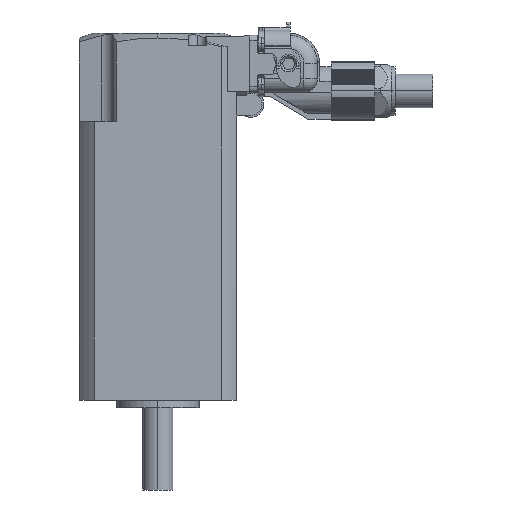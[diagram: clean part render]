
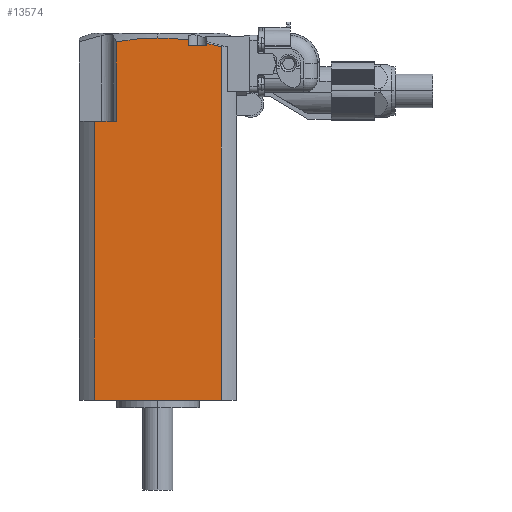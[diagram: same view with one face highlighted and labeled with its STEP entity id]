
A CAD part, left-side view. The second image highlights one B-rep face of the part: STEP entity #13574.
In plain terms, the highlighted planar face has unit normal (-1, 0, 0).
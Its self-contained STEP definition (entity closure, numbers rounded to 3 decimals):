
#25 = ORIENTED_EDGE ( 'NONE', *, *, #14742, .F. ) ;
#794 = VERTEX_POINT ( 'NONE', #15769 ) ;
#1204 = CARTESIAN_POINT ( 'NONE',  ( -21., -16.971, -24. ) ) ;
#1423 = EDGE_CURVE ( 'NONE', #10533, #3192, #8489, .T. ) ;
#1732 = B_SPLINE_CURVE_WITH_KNOTS ( 'NONE', 3,
 ( #17540, #16194, #12061, #17640, #10702, #4946, #17797, #3773 ),
 .UNSPECIFIED., .F., .F.,
 ( 4, 2, 2, 4 ),
 ( 0.054, 0.057, 0.059, 0.065 ),
 .UNSPECIFIED. ) ;
#2133 = VECTOR ( 'NONE', #16808, 1000. ) ;
#3148 = EDGE_CURVE ( 'NONE', #10533, #7988, #8834, .T. ) ;
#3192 = VERTEX_POINT ( 'NONE', #9545 ) ;
#3269 = CARTESIAN_POINT ( 'NONE',  ( -21., -2.688, 96.782 ) ) ;
#3289 = CARTESIAN_POINT ( 'NONE',  ( -21., 11.094, 74.5 ) ) ;
#3773 = CARTESIAN_POINT ( 'NONE',  ( -21., 0., 96.782 ) ) ;
#4004 = B_SPLINE_CURVE_WITH_KNOTS ( 'NONE', 3,
 ( #17925, #5420, #10987, #16383 ),
 .UNSPECIFIED., .F., .F.,
 ( 4, 4 ),
 ( 0.078, 0.082 ),
 .UNSPECIFIED. ) ;
#4194 = EDGE_CURVE ( 'NONE', #3192, #794, #15435, .T. ) ;
#4539 = VECTOR ( 'NONE', #13750, 1000. ) ;
#4626 = CARTESIAN_POINT ( 'NONE',  ( -21., -13.05, 94.75 ) ) ;
#4697 = ORIENTED_EDGE ( 'NONE', *, *, #14717, .F. ) ;
#4809 = CARTESIAN_POINT ( 'NONE',  ( -21., -16.971, 0. ) ) ;
#4946 = CARTESIAN_POINT ( 'NONE',  ( -21., 3.696, 96.693 ) ) ;
#5257 = DIRECTION ( 'NONE',  ( 0., 0., 1. ) ) ;
#5420 = CARTESIAN_POINT ( 'NONE',  ( -21., -14.371, 95.066 ) ) ;
#5590 = VERTEX_POINT ( 'NONE', #17775 ) ;
#5885 = EDGE_CURVE ( 'NONE', #13650, #5590, #11650, .T. ) ;
#6084 = DIRECTION ( 'NONE',  ( 0., 0., 1. ) ) ;
#6255 = CARTESIAN_POINT ( 'NONE',  ( -21., 16.971, 0. ) ) ;
#6271 = CARTESIAN_POINT ( 'NONE',  ( -21., 16.971, 74.5 ) ) ;
#6767 = EDGE_CURVE ( 'NONE', #7140, #13650, #13407, .T. ) ;
#6921 = CARTESIAN_POINT ( 'NONE',  ( -21., -21., 0. ) ) ;
#6985 = ORIENTED_EDGE ( 'NONE', *, *, #3148, .T. ) ;
#7035 = VERTEX_POINT ( 'NONE', #14498 ) ;
#7095 = AXIS2_PLACEMENT_3D ( 'NONE', #10327, #8675, #10140 ) ;
#7140 = VERTEX_POINT ( 'NONE', #6271 ) ;
#7378 = B_SPLINE_CURVE_WITH_KNOTS ( 'NONE', 3,
 ( #16969, #3269, #12773, #11388 ),
 .UNSPECIFIED., .F., .F.,
 ( 4, 4 ),
 ( 0.065, 0.073 ),
 .UNSPECIFIED. ) ;
#7452 = DIRECTION ( 'NONE',  ( 0., 0., 1. ) ) ;
#7671 = ORIENTED_EDGE ( 'NONE', *, *, #5885, .F. ) ;
#7707 = VECTOR ( 'NONE', #7452, 1000. ) ;
#7988 = VERTEX_POINT ( 'NONE', #16030 ) ;
#8007 = VERTEX_POINT ( 'NONE', #6255 ) ;
#8489 = LINE ( 'NONE', #14057, #8524 ) ;
#8524 = VECTOR ( 'NONE', #15992, 1000. ) ;
#8675 = DIRECTION ( 'NONE',  ( 1., 0., 0. ) ) ;
#8834 = LINE ( 'NONE', #12014, #10290 ) ;
#9545 = CARTESIAN_POINT ( 'NONE',  ( -21., -13.05, 94.75 ) ) ;
#9766 = ORIENTED_EDGE ( 'NONE', *, *, #15241, .F. ) ;
#10140 = DIRECTION ( 'NONE',  ( 0., 0., -1. ) ) ;
#10289 = CARTESIAN_POINT ( 'NONE',  ( -21., 11.094, 74.5 ) ) ;
#10290 = VECTOR ( 'NONE', #5257, 1000. ) ;
#10327 = CARTESIAN_POINT ( 'NONE',  ( -21., -21., 10.2 ) ) ;
#10533 = VERTEX_POINT ( 'NONE', #12472 ) ;
#10568 = CARTESIAN_POINT ( 'NONE',  ( -21., 16.971, -24. ) ) ;
#10702 = CARTESIAN_POINT ( 'NONE',  ( -21., 6.473, 96.431 ) ) ;
#10987 = CARTESIAN_POINT ( 'NONE',  ( -21., -15.677, 94.744 ) ) ;
#11225 = LINE ( 'NONE', #6921, #2133 ) ;
#11388 = CARTESIAN_POINT ( 'NONE',  ( -21., -8.05, 96.229 ) ) ;
#11650 = LINE ( 'NONE', #10289, #14842 ) ;
#11684 = ORIENTED_EDGE ( 'NONE', *, *, #16817, .F. ) ;
#12014 = CARTESIAN_POINT ( 'NONE',  ( -21., -8.05, 94.75 ) ) ;
#12017 = LINE ( 'NONE', #10568, #15617 ) ;
#12061 = CARTESIAN_POINT ( 'NONE',  ( -21., 9.253, 96.061 ) ) ;
#12104 = EDGE_CURVE ( 'NONE', #5590, #7035, #1732, .T. ) ;
#12127 = CARTESIAN_POINT ( 'NONE',  ( -21., 16.971, 74.5 ) ) ;
#12472 = CARTESIAN_POINT ( 'NONE',  ( -21., -8.05, 94.75 ) ) ;
#12773 = CARTESIAN_POINT ( 'NONE',  ( -21., -5.371, 96.594 ) ) ;
#12978 = PLANE ( 'NONE',  #7095 ) ;
#13247 = FACE_OUTER_BOUND ( 'NONE', #15614, .T. ) ;
#13407 = LINE ( 'NONE', #12127, #4539 ) ;
#13574 = ADVANCED_FACE ( 'NONE', ( #13247 ), #12978, .F. ) ;
#13650 = VERTEX_POINT ( 'NONE', #3289 ) ;
#13750 = DIRECTION ( 'NONE',  ( 0., -1., 0. ) ) ;
#13779 = ORIENTED_EDGE ( 'NONE', *, *, #4194, .F. ) ;
#13912 = DIRECTION ( 'NONE',  ( 0., 0., -1. ) ) ;
#13973 = CARTESIAN_POINT ( 'NONE',  ( -21., -16.971, 94.389 ) ) ;
#13995 = LINE ( 'NONE', #1204, #15304 ) ;
#14057 = CARTESIAN_POINT ( 'NONE',  ( -21., -8.05, 94.75 ) ) ;
#14498 = CARTESIAN_POINT ( 'NONE',  ( -21., 0., 96.782 ) ) ;
#14717 = EDGE_CURVE ( 'NONE', #16256, #17406, #13995, .T. ) ;
#14742 = EDGE_CURVE ( 'NONE', #794, #16256, #4004, .T. ) ;
#14842 = VECTOR ( 'NONE', #6084, 1000. ) ;
#15000 = ORIENTED_EDGE ( 'NONE', *, *, #12104, .F. ) ;
#15241 = EDGE_CURVE ( 'NONE', #8007, #7140, #12017, .T. ) ;
#15304 = VECTOR ( 'NONE', #13912, 1000. ) ;
#15344 = ORIENTED_EDGE ( 'NONE', *, *, #6767, .F. ) ;
#15435 = LINE ( 'NONE', #4626, #7707 ) ;
#15614 = EDGE_LOOP ( 'NONE', ( #9766, #15763, #4697, #25, #13779, #17971, #6985, #11684, #15000, #7671, #15344 ) ) ;
#15617 = VECTOR ( 'NONE', #17851, 1000. ) ;
#15763 = ORIENTED_EDGE ( 'NONE', *, *, #17865, .T. ) ;
#15769 = CARTESIAN_POINT ( 'NONE',  ( -21., -13.05, 95.35 ) ) ;
#15992 = DIRECTION ( 'NONE',  ( 0., -1., 0. ) ) ;
#16030 = CARTESIAN_POINT ( 'NONE',  ( -21., -8.05, 96.229 ) ) ;
#16194 = CARTESIAN_POINT ( 'NONE',  ( -21., 10.178, 95.91 ) ) ;
#16256 = VERTEX_POINT ( 'NONE', #13973 ) ;
#16383 = CARTESIAN_POINT ( 'NONE',  ( -21., -16.971, 94.389 ) ) ;
#16808 = DIRECTION ( 'NONE',  ( 0., -1., 0. ) ) ;
#16817 = EDGE_CURVE ( 'NONE', #7035, #7988, #7378, .T. ) ;
#16969 = CARTESIAN_POINT ( 'NONE',  ( -21., 0., 96.782 ) ) ;
#17406 = VERTEX_POINT ( 'NONE', #4809 ) ;
#17540 = CARTESIAN_POINT ( 'NONE',  ( -21., 11.094, 95.741 ) ) ;
#17640 = CARTESIAN_POINT ( 'NONE',  ( -21., 7.399, 96.322 ) ) ;
#17775 = CARTESIAN_POINT ( 'NONE',  ( -21., 11.094, 95.741 ) ) ;
#17797 = CARTESIAN_POINT ( 'NONE',  ( -21., 1.847, 96.782 ) ) ;
#17851 = DIRECTION ( 'NONE',  ( 0., 0., 1. ) ) ;
#17865 = EDGE_CURVE ( 'NONE', #8007, #17406, #11225, .T. ) ;
#17925 = CARTESIAN_POINT ( 'NONE',  ( -21., -13.05, 95.35 ) ) ;
#17971 = ORIENTED_EDGE ( 'NONE', *, *, #1423, .F. ) ;
